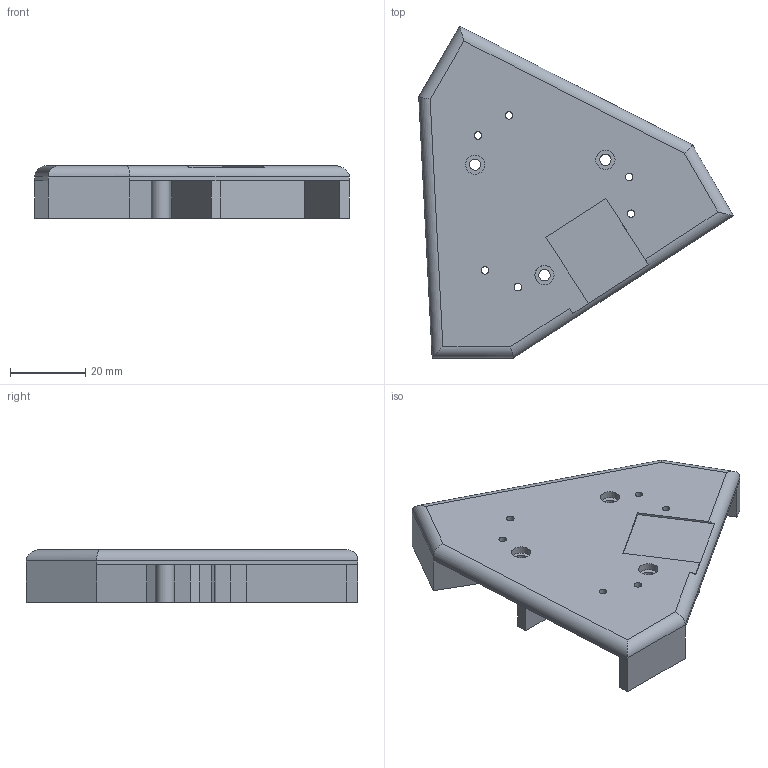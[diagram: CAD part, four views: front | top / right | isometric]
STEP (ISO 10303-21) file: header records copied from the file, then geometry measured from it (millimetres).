
FILE_DESCRIPTION(('FreeCAD Model'),'2;1');
FILE_NAME('Open CASCADE Shape Model','2026-09-18T10:55:58',('Author'),( ''),'Open CASCADE STEP processor 7.8','FreeCAD','Unknown');
FILE_SCHEMA(('AUTOMOTIVE_DESIGN { 1 0 10303 214 1 1 1 1 }'));
Length unit declared in the file: millimetre
Products named in the file (1): Body
Bounding box: 83.59 x 88.2 x 14 mm (x, y, z)
Volume: 26487.2 mm3; surface area: 16746.2 mm2
Topology: 1 solids, 1 shells, 95 faces, 253 edges, 166 vertices
Faces by surface type: plane 74, cylinder 21
Full cylindrical faces by diameter (mm): 2 x6, 3 x3, 5 x3, 5.1 x3
Entity records: 2980 total; most frequent: CARTESIAN_POINT 519, ORIENTED_EDGE 506, DIRECTION 484, EDGE_CURVE 253, LINE 206, VECTOR 206, VERTEX_POINT 166, AXIS2_PLACEMENT_3D 139
